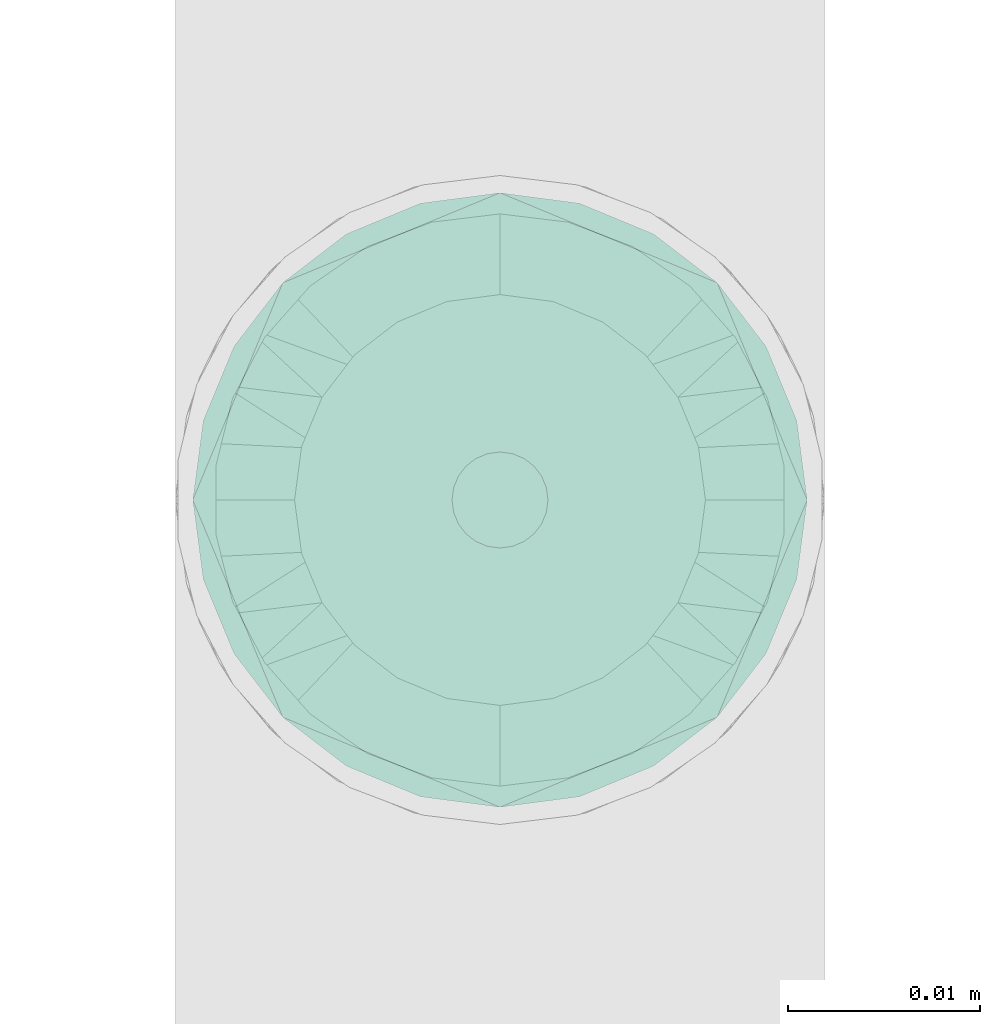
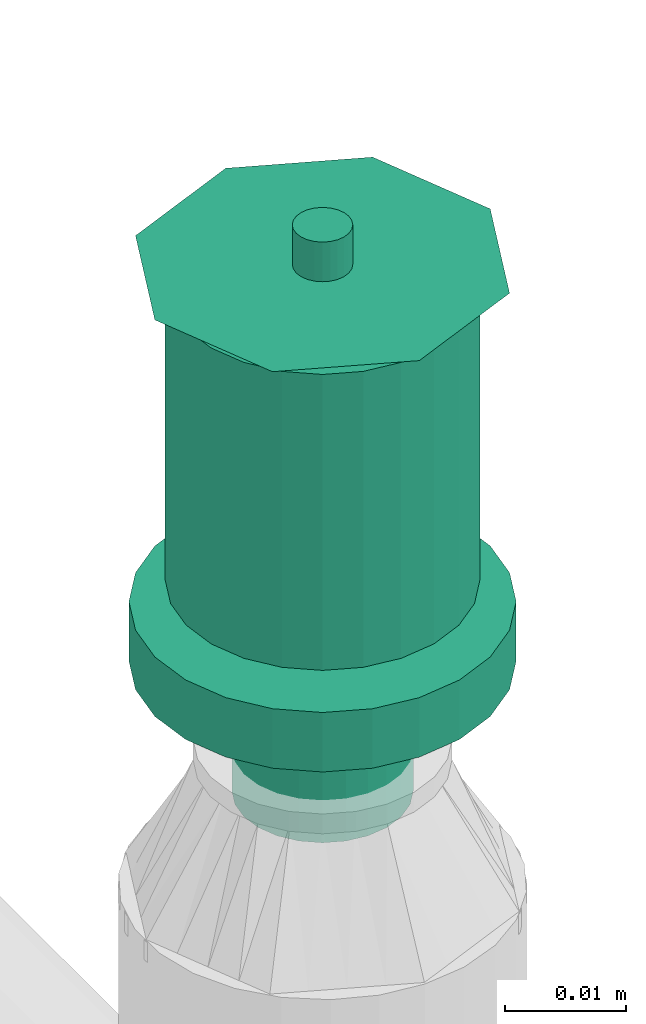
# One storey, part 5 of 31: 1 flow terminal.
"""IFC2X3 building model written with IfcOpenShell, lengths in millimetres."""

from ifc_helpers import new_model, entity, si_unit, converted_unit, derived_unit, direction, frame, origin_with_axes, place, context, subcontext, project, spatial, open_shell, surface_model, source, transform, mapped, type_object, element, save


model = new_model("IFC2X3")

# Units and contexts
model_context = context("Model", 3, precision=0.01, world=frame((0.0, 4.29681676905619e-09, 0.0)), true_north=direction((4.01073788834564e-13, 1.0)))
plan_context = context("Plan", 3, precision=0.01, world=frame((0.0, 4.29681676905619e-09, 0.0)), true_north=direction((4.01073788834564e-13, 1.0)))
body_context = subcontext(model_context, "Body", "Model", "MODEL_VIEW")
ifc_project = project(units=[converted_unit("PLANEANGLEUNIT", "DEGREE", entity("IfcPositiveLengthMeasure", 0.0174532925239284), si_unit("PLANEANGLEUNIT", "RADIAN"), dimensions=[0, 0, 0, 0, 0, 0, 0]), si_unit("AREAUNIT", "SQUARE_METRE"), si_unit("LENGTHUNIT", "METRE", prefix="MILLI"), si_unit("MASSUNIT", "GRAM", prefix="KILO"), si_unit("POWERUNIT", "WATT"), si_unit("PRESSUREUNIT", "PASCAL", prefix="KILO"), si_unit("FORCEUNIT", "NEWTON", prefix="KILO"), si_unit("ELECTRICVOLTAGEUNIT", "VOLT"), si_unit("ELECTRICCURRENTUNIT", "AMPERE"), si_unit("THERMODYNAMICTEMPERATUREUNIT", "DEGREE_CELSIUS"), si_unit("TIMEUNIT", "SECOND"), si_unit("VOLUMEUNIT", "CUBIC_METRE"), derived_unit("LINEARVELOCITYUNIT", [(si_unit("LENGTHUNIT", "METRE"), 1), (si_unit("TIMEUNIT", "SECOND"), -1)]), derived_unit("VOLUMETRICFLOWRATEUNIT", [(si_unit("VOLUMEUNIT", "CUBIC_METRE"), 1), (si_unit("TIMEUNIT", "SECOND"), -1)]), derived_unit("THERMALTRANSMITTANCEUNIT", [(si_unit("POWERUNIT", "WATT"), 1), (si_unit("THERMODYNAMICTEMPERATUREUNIT", "KELVIN"), -1), (si_unit("AREAUNIT", "SQUARE_METRE"), -1)]), derived_unit("SOUNDPRESSUREUNIT", [(si_unit("PRESSUREUNIT", "PASCAL"), 1)])], contexts=[model_context, plan_context])

# Site, building, storey
site_placement = place(None, frame((0.0, -4.29681676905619e-09, 0.0), z_axis=(0.0, 0.0, 1.0), x_axis=(1.0, 0.0, 0.0)))
site = spatial("IfcSite", under=ifc_project, at=site_placement, CompositionType="ELEMENT")
building_placement = place(site_placement, frame((0.0, 4.29681676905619e-09, 0.0), z_axis=(0.0, 0.0, 1.0), x_axis=(1.0, 0.0, 0.0)))
building = spatial("IfcBuilding", under=site, at=building_placement, Name="mc-building", CompositionType="ELEMENT")
storey_placement = place(building_placement, frame((0.0, 0.0, 200300.0), z_axis=(0.0, 0.0, 1.0), x_axis=(1.0, 0.0, 0.0)))
storey = spatial("IfcBuildingStorey", under=building, at=storey_placement, Name="Nivå C", CompositionType="ELEMENT", Elevation=200300.0)

# Flow terminal
fire_suppression_terminal_type = type_object("IfcFireSuppressionTerminalType", Name="68DGR-STD-STÅENDE", PredefinedType="NOTDEFINED")
shared_shape = source(origin_with_axes(), body_context, "Body", "SurfaceModel", [
    surface_model("IfcShellBasedSurfaceModel", [(12.55704, 3.36465, 21.14766), (13.0, 0.0, 21.14766), (12.55704, -3.36465, 21.14766), (-12.55704, -3.36465, 21.14766), (-11.25833, -6.5, 21.14766), (-11.25833, -6.5, 51.0), (3.36465, -12.55704, 51.0), (3.36465, -12.55704, 21.14766), (6.5, -11.25833, 21.14766), (9.19239, -9.19239, 21.14766), (11.25833, -6.5, 21.14766), (9.19239, -9.19239, 51.0), (6.5, -11.25833, 51.0), (11.25833, -6.5, 51.0), (12.55704, -3.36465, 51.0), (13.0, 0.0, 51.0), (9.19239, 9.19239, 51.0), (11.25833, 6.5, 21.14766), (9.19239, 9.19239, 21.14766), (11.25833, 6.5, 51.0), (12.55704, 3.36465, 51.0), (6.5, 11.25833, 51.0), (6.5, 11.25833, 21.14766), (3.36465, 12.55704, 21.14766), (3.36465, 12.55704, 51.0), (-11.25833, 6.5, 51.0), (-11.25833, 6.5, 21.14766), (-12.55704, 3.36465, 21.14766), (0.0, -2.5, 51.0), (-2.5, 0.0, 51.0), (0.0, 2.5, 51.0), (2.5, 0.0, 51.0), (11.31371, 11.31371, 53.0), (-11.31371, 11.31371, 53.0), (-11.31371, -11.31371, 53.0), (11.31371, -11.31371, 53.0), (1.62635, 1.62635, 51.0), (2.16506, 1.25, 51.0), (1.99186, 1.15, 51.0), (-1.76777, 1.76777, 51.0), (-1.25, 2.16506, 51.0), (-1.62635, 1.62635, 51.0), (1.99186, -1.15, 51.0), (2.16506, -1.25, 51.0), (1.62635, -1.62635, 51.0), (-1.62635, -1.62635, 51.0), (-1.25, -2.16506, 51.0), (-1.76777, -1.76777, 51.0), (0.0, 7.3, 0.0), (1.94114, 7.24444, 0.0), (1.88938, 7.05126, 0.0), (5.16188, 5.16188, 0.0), (6.49519, 3.75, 0.0), (6.32199, 3.65, 0.0), (-5.3033, 5.3033, 0.0), (-3.75, 6.49519, 0.0), (-5.16188, 5.16188, 0.0), (6.32199, -3.65, 0.0), (6.49519, -3.75, 0.0), (5.16188, -5.16188, 0.0), (1.88938, -7.05126, 0.0), (1.94114, -7.24444, 0.0), (0.0, -7.3, 0.0), (-5.16188, -5.16188, 0.0), (-3.75, -6.49519, 0.0), (-5.3033, -5.3033, 0.0), (-3.36465, 12.55704, 51.0), (-6.5, 11.25833, 51.0), (0.0, 13.0, 51.0), (-9.19239, 9.19239, 51.0), (0.0, -13.0, 51.0), (-9.19239, -9.19239, 51.0), (-12.55704, -3.36465, 51.0), (-6.5, -11.25833, 51.0), (-3.36465, -12.55704, 51.0), (-7.5, 0.0, -0.1), (-7.24444, 1.94114, 0.1), (-7.24444, 1.94114, -0.1), (-6.49519, 3.75, 0.1), (-6.49519, 3.75, -0.1), (-3.75, 6.49519, -0.1), (-5.3033, 5.3033, -0.1), (-3.75, 6.49519, 0.1), (-5.3033, 5.3033, 0.1), (-1.94114, 7.24444, -0.1), (-1.94114, 7.24444, 0.1), (-7.5, 0.0, 0.1), (0.0, 7.5, 0.1), (0.0, 7.5, -0.1), (1.94114, 7.24444, 0.1), (1.94114, 7.24444, -0.1), (3.75, 6.49519, 0.1), (3.75, 6.49519, -0.1), (6.49519, 3.75, -0.1), (5.3033, 5.3033, -0.1), (6.49519, 3.75, 0.1), (5.3033, 5.3033, 0.1), (7.24444, 1.94114, -0.1), (7.24444, 1.94114, 0.1), (7.5, 0.0, 0.1), (7.5, 0.0, -0.1), (-7.24444, -1.94114, 0.1), (7.24444, -1.94114, 0.1), (5.3033, -5.3033, 0.1), (6.49519, -3.75, 0.1), (-6.49519, -3.75, 0.1), (0.0, -7.5, 0.1), (1.94114, -7.24444, 0.1), (3.75, -6.49519, 0.1), (-3.75, -6.49519, 0.1), (-1.94114, -7.24444, 0.1), (-5.3033, -5.3033, 0.1), (0.0, -7.5, -0.1), (-6.49519, -3.75, -0.1), (1.94114, -7.24444, -0.1), (3.75, -6.49519, -0.1), (5.3033, -5.3033, -0.1), (7.24444, -1.94114, -0.1), (6.49519, -3.75, -0.1), (-3.75, -6.49519, -0.1), (-5.3033, -5.3033, -0.1), (-1.94114, -7.24444, -0.1), (-7.24444, -1.94114, -0.1), (16.0, 0.0, 53.0), (0.0, -16.0, 53.0), (-16.0, 0.0, 53.0), (0.0, 16.0, 53.0), (0.64705, 2.41481, 57.0), (0.0, 2.5, 57.0), (1.25, 2.16506, 57.0), (-2.5, 0.0, 57.0), (1.76777, 1.76777, 57.0), (2.41481, 0.64705, 57.0), (2.16506, 1.25, 57.0), (-0.64705, 2.41481, 57.0), (-1.25, 2.16506, 57.0), (-1.76777, 1.76777, 57.0), (-2.16506, 1.25, 57.0), (-2.41481, 0.64705, 57.0), (2.5, 0.0, 57.0), (1.76777, -1.76777, 57.0), (2.16506, -1.25, 57.0), (2.41481, -0.64705, 57.0), (-2.41481, -0.64705, 57.0), (0.64705, -2.41481, 57.0), (1.25, -2.16506, 57.0), (0.0, -2.5, 57.0), (-1.76777, -1.76777, 57.0), (-2.16506, -1.25, 57.0), (-1.25, -2.16506, 57.0), (-0.64705, -2.41481, 57.0), (1.15, -1.99186, 51.0), (1.76777, -1.76777, 51.0), (1.25, -2.16506, 51.0), (0.59528, -2.22163, 51.0), (0.0, -2.3, 51.0), (0.64705, -2.41481, 51.0), (2.22163, -0.59528, 51.0), (2.3, 0.0, 51.0), (2.41481, -0.64705, 51.0), (-0.64705, -2.41481, 51.0), (-0.59528, -2.22163, 51.0), (-1.15, -1.99186, 51.0), (-2.16506, -1.25, 51.0), (-1.99186, -1.15, 51.0), (-2.22163, -0.59528, 51.0), (-2.3, 0.0, 51.0), (-2.41481, -0.64705, 51.0), (2.22163, 0.59528, 51.0), (2.41481, 0.64705, 51.0), (1.76777, 1.76777, 51.0), (1.15, 1.99186, 51.0), (1.25, 2.16506, 51.0), (0.59528, 2.22163, 51.0), (0.0, 2.3, 51.0), (0.64705, 2.41481, 51.0), (-1.99186, 1.15, 51.0), (-2.16506, 1.25, 51.0), (-2.41481, 0.64705, 51.0), (-2.22163, 0.59528, 51.0), (-0.64705, 2.41481, 51.0), (-0.59528, 2.22163, 51.0), (-1.15, 1.99186, 51.0), (-2.22163, 0.59528, 56.8), (-1.99186, 1.15, 56.8), (-1.15, 1.99186, 56.8), (-1.62635, 1.62635, 56.8), (-0.59528, 2.22163, 56.8), (-2.3, 0.0, 56.8), (0.0, 2.3, 56.8), (0.59528, 2.22163, 56.8), (1.15, 1.99186, 56.8), (1.99186, 1.15, 56.8), (1.62635, 1.62635, 56.8), (2.22163, 0.59528, 56.8), (2.3, 0.0, 56.8), (2.22163, -0.59528, 56.8), (1.99186, -1.15, 56.8), (1.62635, -1.62635, 56.8), (1.15, -1.99186, 56.8), (0.59528, -2.22163, 56.8), (0.0, -2.3, 56.8), (-1.99186, -1.15, 56.8), (-2.22163, -0.59528, 56.8), (-1.62635, -1.62635, 56.8), (-0.59528, -2.22163, 56.8), (-1.15, -1.99186, 56.8), (8.0, -13.85641, 13.0), (4.1411, -15.45481, 13.0), (0.0, -16.0, 13.0), (-4.1411, -15.45481, 13.0), (15.45481, -4.1411, 13.0), (13.85641, -8.0, 13.0), (11.31371, -11.31371, 13.0), (-16.0, 0.0, 13.0), (-8.0, -13.85641, 13.0), (-11.31371, -11.31371, 13.0), (-13.85641, -8.0, 13.0), (-15.45481, -4.1411, 13.0), (15.45481, 4.1411, 13.0), (4.1411, 15.45481, 13.0), (13.85641, 8.0, 13.0), (8.0, 13.85641, 13.0), (11.31371, 11.31371, 13.0), (-15.45481, 4.1411, 13.0), (-11.31371, 11.31371, 13.0), (-8.0, 13.85641, 13.0), (-13.85641, 8.0, 13.0), (-4.1411, 15.45481, 13.0), (0.0, 16.0, 13.0), (16.0, 0.0, 13.0), (7.05126, 1.88938, 12.8), (1.88938, 7.05126, 12.8), (3.65, 6.32199, 12.8), (6.32199, 3.65, 12.8), (5.16188, 5.16188, 12.8), (7.3, 0.0, 12.8), (0.0, 7.3, 12.8), (-3.65, 6.32199, 12.8), (-1.88938, 7.05126, 12.8), (-5.16188, 5.16188, 12.8), (-7.05126, 1.88938, 12.8), (-6.32199, 3.65, 12.8), (7.05126, -1.88938, 12.8), (0.0, -7.3, 12.8), (6.32199, -3.65, 12.8), (3.65, -6.32199, 12.8), (5.16188, -5.16188, 12.8), (1.88938, -7.05126, 12.8), (-7.3, 0.0, 12.8), (-6.32199, -3.65, 12.8), (-7.05126, -1.88938, 12.8), (-1.88938, -7.05126, 12.8), (-5.16188, -5.16188, 12.8), (-3.65, -6.32199, 12.8), (-7.05126, 1.88938, 0.0), (-7.3, 0.0, 0.0), (-6.32199, 3.65, 0.0), (-3.65, 6.32199, 0.0), (-1.88938, 7.05126, 0.0), (3.65, 6.32199, 0.0), (7.05126, 1.88938, 0.0), (7.3, 0.0, 0.0), (3.75, 6.49519, 13.0), (1.94114, 7.24444, 13.0), (7.5, 0.0, 13.0), (5.3033, 5.3033, 13.0), (7.24444, 1.94114, 13.0), (6.49519, 3.75, 13.0), (-5.3033, 5.3033, 13.0), (-7.24444, -1.94114, 13.0), (-1.94114, 7.24444, 13.0), (-3.75, 6.49519, 13.0), (0.0, 7.5, 13.0), (-6.49519, 3.75, 13.0), (-7.24444, 1.94114, 13.0), (7.24444, -1.94114, 13.0), (5.3033, -5.3033, 13.0), (6.49519, -3.75, 13.0), (-6.49519, -3.75, 13.0), (0.0, -7.5, 13.0), (1.94114, -7.24444, 13.0), (3.75, -6.49519, 13.0), (-7.5, 0.0, 13.0), (-3.75, -6.49519, 13.0), (-1.94114, -7.24444, 13.0), (-5.3033, -5.3033, 13.0), (3.65, -6.32199, 0.0), (5.3033, -5.3033, 0.0), (3.75, -6.49519, 0.0), (0.0, -7.5, 0.0), (7.05126, -1.88938, 0.0), (7.24444, -1.94114, 0.0), (7.5, 0.0, 0.0), (-1.94114, -7.24444, 0.0), (-1.88938, -7.05126, 0.0), (-3.65, -6.32199, 0.0), (-6.49519, -3.75, 0.0), (-6.32199, -3.65, 0.0), (-7.05126, -1.88938, 0.0), (-7.24444, -1.94114, 0.0), (-7.5, 0.0, 0.0), (7.24444, 1.94114, 0.0), (5.3033, 5.3033, 0.0), (3.75, 6.49519, 0.0), (0.0, 7.5, 0.0), (-6.49519, 3.75, 0.0), (-7.24444, 1.94114, 0.0), (-1.94114, 7.24444, 0.0), (-12.55704, 3.36465, 51.0), (-13.0, 0.0, 51.0), (0.0, -13.0, 21.14766), (-3.36465, -12.55704, 21.14766), (-6.5, -11.25833, 21.14766), (-9.19239, -9.19239, 21.14766), (-13.0, 0.0, 21.14766), (-9.19239, 9.19239, 21.14766), (-6.5, 11.25833, 21.14766), (-3.36465, 12.55704, 21.14766), (0.0, 13.0, 21.14766), (11.31371, 11.31371, 19.0), (8.0, 13.85641, 19.0), (4.1411, 15.45481, 19.0), (-8.0, 13.85641, 19.0), (16.0, 0.0, 19.0), (15.45481, 4.1411, 19.0), (13.85641, 8.0, 19.0), (-4.1411, 15.45481, 19.0), (0.0, 16.0, 19.0), (-11.31371, 11.31371, 19.0), (-13.85641, 8.0, 19.0), (-15.45481, 4.1411, 19.0), (15.45481, -4.1411, 19.0), (11.31371, -11.31371, 19.0), (13.85641, -8.0, 19.0), (-16.0, 0.0, 19.0), (0.0, -16.0, 19.0), (4.1411, -15.45481, 19.0), (8.0, -13.85641, 19.0), (-13.85641, -8.0, 19.0), (-11.31371, -11.31371, 19.0), (-15.45481, -4.1411, 19.0), (-8.0, -13.85641, 19.0), (-4.1411, -15.45481, 19.0)], [open_shell([[[0, 1, 2]], [[3, 4, 5]], [[6, 7, 8]], [[9, 10, 11]], [[9, 11, 12]], [[10, 13, 11]], [[14, 13, 2]], [[1, 15, 14]], [[16, 17, 18]], [[0, 19, 20]], [[20, 15, 1]], [[21, 16, 18]], [[22, 23, 24]], [[16, 19, 17]], [[25, 26, 27]], [[28, 29, 30]], [[30, 31, 28]], [[31, 30, 32]], [[33, 30, 29]], [[29, 28, 34]], [[35, 28, 31]], [[36, 37, 38]], [[39, 40, 41]], [[42, 43, 44]], [[45, 46, 47]], [[48, 49, 50]], [[51, 52, 53]], [[54, 55, 56]], [[57, 58, 59]], [[60, 61, 62]], [[63, 64, 65]], [[66, 67, 68]], [[67, 24, 68]], [[69, 25, 67]], [[15, 20, 14]], [[70, 6, 12]], [[5, 71, 72]], [[73, 74, 71]], [[72, 71, 74]], [[75, 76, 77]], [[77, 78, 79]], [[80, 81, 82]], [[83, 81, 79]], [[84, 80, 85]], [[76, 78, 77]], [[75, 86, 76]], [[80, 82, 85]], [[82, 81, 83]], [[79, 78, 83]], [[84, 85, 87]], [[87, 88, 84]], [[88, 89, 90]], [[90, 91, 92]], [[93, 94, 95]], [[96, 94, 92]], [[97, 93, 98]], [[91, 96, 92]], [[90, 89, 91]], [[97, 98, 99]], [[98, 93, 95]], [[94, 96, 95]], [[97, 99, 100]], [[87, 89, 88]], [[91, 89, 99]], [[96, 91, 98]], [[91, 99, 98]], [[95, 96, 98]], [[89, 83, 101]], [[85, 82, 87]], [[83, 87, 82]], [[78, 76, 83]], [[89, 87, 83]], [[76, 101, 83]], [[102, 99, 89]], [[103, 104, 102]], [[89, 105, 103]], [[103, 106, 107]], [[108, 103, 107]], [[106, 103, 105]], [[89, 101, 105]], [[101, 76, 86]], [[109, 110, 111]], [[105, 111, 110]], [[106, 105, 110]], [[103, 102, 89]], [[112, 113, 114]], [[115, 114, 116]], [[117, 118, 116]], [[113, 116, 114]], [[116, 113, 117]], [[119, 120, 121]], [[113, 121, 120]], [[121, 113, 112]], [[113, 122, 117]], [[75, 77, 122]], [[100, 117, 122]], [[100, 81, 97]], [[93, 97, 90]], [[90, 92, 94]], [[93, 90, 94]], [[90, 97, 81]], [[79, 81, 77]], [[77, 81, 122]], [[84, 88, 80]], [[81, 80, 88]], [[81, 88, 90]], [[100, 122, 81]], [[100, 102, 117]], [[117, 104, 118]], [[115, 116, 108]], [[103, 116, 118]], [[114, 115, 107]], [[102, 104, 117]], [[100, 99, 102]], [[115, 108, 107]], [[108, 116, 103]], [[118, 104, 103]], [[114, 107, 106]], [[106, 112, 114]], [[112, 110, 121]], [[121, 109, 119]], [[113, 120, 105]], [[111, 120, 119]], [[122, 113, 101]], [[109, 111, 119]], [[121, 110, 109]], [[122, 101, 86]], [[101, 113, 105]], [[120, 111, 105]], [[122, 86, 75]], [[106, 110, 112]], [[31, 123, 35]], [[35, 124, 28]], [[124, 34, 28]], [[29, 34, 125]], [[33, 32, 126]], [[33, 125, 124]], [[124, 32, 33]], [[124, 35, 123]], [[124, 125, 34]], [[123, 32, 124]], [[29, 125, 33]], [[33, 126, 30]], [[126, 32, 30]], [[31, 32, 123]], [[127, 128, 129]], [[129, 130, 131]], [[132, 131, 130]], [[133, 131, 132]], [[130, 129, 128]], [[134, 135, 128]], [[136, 128, 135]], [[137, 138, 136]], [[128, 136, 130]], [[138, 130, 136]], [[139, 132, 130]], [[140, 141, 142]], [[143, 140, 139]], [[144, 140, 143]], [[145, 140, 144]], [[146, 144, 147]], [[139, 130, 143]], [[143, 148, 144]], [[149, 150, 147]], [[144, 148, 147]], [[146, 147, 150]], [[140, 142, 139]], [[151, 152, 153]], [[154, 151, 153]], [[155, 154, 156]], [[153, 156, 154]], [[28, 155, 156]], [[44, 152, 151]], [[157, 158, 159]], [[31, 159, 158]], [[43, 157, 159]], [[152, 44, 43]], [[157, 43, 42]], [[160, 161, 28]], [[161, 155, 28]], [[162, 161, 160]], [[160, 46, 162]], [[162, 46, 45]], [[47, 163, 164]], [[165, 164, 163]], [[45, 47, 164]], [[166, 165, 167]], [[163, 167, 165]], [[29, 166, 167]], [[168, 169, 31]], [[38, 169, 168]], [[169, 38, 37]], [[170, 37, 36]], [[171, 172, 170]], [[173, 172, 171]], [[174, 175, 173]], [[172, 173, 175]], [[30, 175, 174]], [[170, 36, 171]], [[39, 176, 177]], [[41, 176, 39]], [[178, 177, 176]], [[178, 179, 29]], [[176, 179, 178]], [[179, 166, 29]], [[180, 30, 181]], [[182, 180, 181]], [[182, 41, 40]], [[180, 182, 40]], [[181, 30, 174]], [[31, 158, 168]], [[29, 138, 178]], [[178, 137, 177]], [[40, 39, 135]], [[136, 39, 177]], [[180, 40, 134]], [[138, 137, 178]], [[29, 130, 138]], [[40, 135, 134]], [[135, 39, 136]], [[177, 137, 136]], [[180, 134, 128]], [[128, 30, 180]], [[30, 127, 175]], [[175, 129, 172]], [[37, 170, 133]], [[131, 170, 172]], [[169, 37, 132]], [[129, 131, 172]], [[175, 127, 129]], [[169, 132, 139]], [[132, 37, 133]], [[170, 131, 133]], [[169, 139, 31]], [[128, 127, 30]], [[179, 183, 166]], [[176, 184, 179]], [[185, 41, 182]], [[176, 41, 186]], [[187, 182, 181]], [[179, 184, 183]], [[183, 188, 166]], [[187, 185, 182]], [[186, 41, 185]], [[186, 184, 176]], [[189, 187, 181]], [[181, 174, 189]], [[173, 190, 174]], [[171, 191, 173]], [[192, 36, 38]], [[171, 36, 193]], [[194, 38, 168]], [[171, 193, 191]], [[191, 190, 173]], [[195, 194, 168]], [[192, 38, 194]], [[192, 193, 36]], [[158, 195, 168]], [[174, 190, 189]], [[31, 142, 159]], [[159, 141, 43]], [[153, 152, 145]], [[140, 152, 43]], [[156, 153, 144]], [[142, 141, 159]], [[31, 139, 142]], [[153, 145, 144]], [[145, 152, 140]], [[43, 141, 140]], [[156, 144, 146]], [[146, 28, 156]], [[28, 150, 160]], [[160, 149, 46]], [[163, 47, 148]], [[147, 47, 46]], [[167, 163, 143]], [[149, 147, 46]], [[160, 150, 149]], [[167, 143, 130]], [[143, 163, 148]], [[47, 147, 148]], [[167, 130, 29]], [[146, 150, 28]], [[190, 191, 193]], [[190, 193, 195]], [[194, 195, 193]], [[194, 193, 192]], [[190, 195, 186]], [[189, 185, 187]], [[185, 189, 186]], [[186, 183, 184]], [[186, 189, 190]], [[186, 196, 183]], [[186, 195, 196]], [[196, 197, 198]], [[196, 198, 199]], [[199, 200, 201]], [[199, 201, 196]], [[196, 201, 202]], [[188, 202, 203]], [[183, 202, 188]], [[204, 205, 206]], [[205, 204, 202]], [[201, 205, 202]], [[202, 183, 196]], [[157, 196, 158]], [[42, 197, 157]], [[199, 44, 151]], [[42, 44, 198]], [[200, 151, 154]], [[157, 197, 196]], [[196, 195, 158]], [[200, 199, 151]], [[198, 44, 199]], [[198, 197, 42]], [[201, 200, 154]], [[154, 155, 201]], [[161, 205, 155]], [[162, 206, 161]], [[202, 45, 164]], [[162, 45, 204]], [[203, 164, 165]], [[162, 204, 206]], [[206, 205, 161]], [[188, 203, 165]], [[202, 164, 203]], [[202, 204, 45]], [[166, 188, 165]], [[155, 205, 201]], [[207, 208, 209]], [[207, 209, 210]], [[211, 212, 213]], [[213, 207, 214]], [[211, 213, 214]], [[215, 216, 210]], [[217, 210, 216]], [[217, 218, 210]], [[218, 207, 210]], [[218, 214, 207]], [[214, 219, 211]], [[220, 219, 214]], [[221, 219, 220]], [[220, 222, 223]], [[221, 220, 223]], [[214, 224, 220]], [[225, 226, 227]], [[224, 227, 226]], [[228, 229, 226]], [[220, 224, 226]], [[226, 229, 220]], [[219, 230, 211]], [[231, 232, 233]], [[234, 233, 235]], [[231, 236, 232]], [[231, 233, 234]], [[232, 236, 237]], [[237, 238, 239]], [[238, 237, 240]], [[240, 241, 242]], [[240, 237, 236]], [[236, 241, 240]], [[236, 243, 241]], [[244, 243, 245]], [[246, 245, 247]], [[246, 248, 244]], [[246, 244, 245]], [[243, 244, 249]], [[249, 250, 251]], [[250, 249, 252]], [[253, 252, 254]], [[252, 253, 250]], [[249, 244, 252]], [[243, 249, 241]], [[255, 241, 256]], [[257, 242, 255]], [[238, 56, 258]], [[257, 56, 240]], [[239, 258, 259]], [[255, 242, 241]], [[241, 249, 256]], [[239, 238, 258]], [[240, 56, 238]], [[240, 242, 257]], [[237, 239, 259]], [[259, 48, 237]], [[50, 232, 48]], [[260, 233, 50]], [[234, 51, 53]], [[260, 51, 235]], [[231, 53, 261]], [[260, 235, 233]], [[233, 232, 50]], [[236, 231, 261]], [[234, 53, 231]], [[234, 235, 51]], [[262, 236, 261]], [[48, 232, 237]], [[263, 264, 265]], [[266, 263, 267]], [[263, 265, 267]], [[268, 266, 267]], [[264, 269, 270]], [[271, 272, 273]], [[269, 273, 272]], [[274, 275, 269]], [[264, 273, 269]], [[275, 270, 269]], [[276, 265, 264]], [[277, 278, 276]], [[264, 279, 277]], [[277, 280, 281]], [[282, 277, 281]], [[280, 277, 279]], [[264, 270, 279]], [[270, 275, 283]], [[284, 285, 286]], [[279, 286, 285]], [[280, 279, 285]], [[277, 276, 264]], [[287, 288, 289]], [[60, 287, 289]], [[290, 62, 61]], [[289, 61, 60]], [[59, 288, 287]], [[291, 262, 292]], [[293, 292, 262]], [[58, 291, 292]], [[288, 59, 58]], [[291, 58, 57]], [[294, 295, 290]], [[296, 295, 294]], [[294, 64, 296]], [[64, 63, 296]], [[295, 62, 290]], [[65, 297, 298]], [[299, 298, 297]], [[63, 65, 298]], [[256, 299, 300]], [[297, 300, 299]], [[301, 256, 300]], [[261, 302, 293]], [[53, 302, 261]], [[302, 53, 52]], [[303, 52, 51]], [[260, 304, 303]], [[50, 304, 260]], [[304, 50, 49]], [[305, 49, 48]], [[303, 51, 260]], [[54, 257, 306]], [[56, 257, 54]], [[307, 306, 257]], [[307, 255, 301]], [[257, 255, 307]], [[255, 256, 301]], [[308, 305, 259]], [[258, 308, 259]], [[55, 258, 56]], [[308, 258, 55]], [[259, 305, 48]], [[293, 262, 261]], [[301, 275, 307]], [[307, 274, 306]], [[55, 54, 272]], [[269, 54, 306]], [[308, 55, 271]], [[275, 274, 307]], [[301, 283, 275]], [[55, 272, 271]], [[272, 54, 269]], [[306, 274, 269]], [[308, 271, 273]], [[273, 305, 308]], [[305, 264, 49]], [[49, 263, 304]], [[52, 303, 268]], [[266, 303, 304]], [[302, 52, 267]], [[263, 266, 304]], [[49, 264, 263]], [[302, 267, 265]], [[267, 52, 268]], [[303, 266, 268]], [[302, 265, 293]], [[273, 264, 305]], [[293, 276, 292]], [[292, 278, 58]], [[289, 288, 282]], [[277, 288, 58]], [[61, 289, 281]], [[276, 278, 292]], [[293, 265, 276]], [[289, 282, 281]], [[282, 288, 277]], [[58, 278, 277]], [[61, 281, 280]], [[280, 290, 61]], [[290, 285, 294]], [[294, 284, 64]], [[297, 65, 279]], [[286, 65, 64]], [[300, 297, 270]], [[284, 286, 64]], [[294, 285, 284]], [[300, 270, 283]], [[270, 297, 279]], [[65, 286, 279]], [[300, 283, 301]], [[280, 285, 290]], [[291, 243, 262]], [[57, 245, 291]], [[246, 59, 287]], [[57, 59, 247]], [[248, 287, 60]], [[291, 245, 243]], [[243, 236, 262]], [[248, 246, 287]], [[247, 59, 246]], [[247, 245, 57]], [[244, 248, 60]], [[60, 62, 244]], [[295, 252, 62]], [[296, 254, 295]], [[250, 63, 298]], [[296, 63, 253]], [[251, 298, 299]], [[296, 253, 254]], [[254, 252, 295]], [[249, 251, 299]], [[250, 298, 251]], [[250, 253, 63]], [[256, 249, 299]], [[62, 252, 244]], [[16, 21, 24]], [[20, 16, 24]], [[24, 67, 72]], [[19, 16, 20]], [[24, 72, 20]], [[25, 72, 67]], [[309, 310, 25]], [[11, 13, 14]], [[72, 11, 20]], [[74, 12, 11]], [[12, 74, 70]], [[72, 25, 310]], [[72, 74, 11]], [[11, 14, 20]], [[8, 7, 311]], [[8, 311, 312]], [[2, 10, 9]], [[3, 9, 8]], [[3, 26, 9]], [[313, 314, 312]], [[3, 312, 314]], [[4, 3, 314]], [[3, 8, 312]], [[315, 26, 3]], [[2, 9, 26]], [[0, 2, 26]], [[17, 0, 18]], [[23, 22, 18]], [[0, 23, 18]], [[23, 0, 26]], [[316, 317, 26]], [[26, 315, 27]], [[318, 319, 317]], [[23, 26, 317]], [[23, 317, 319]], [[316, 26, 25]], [[318, 317, 67]], [[69, 317, 316]], [[319, 318, 66]], [[310, 309, 315]], [[27, 315, 309]], [[25, 27, 309]], [[25, 69, 316]], [[317, 69, 67]], [[67, 66, 318]], [[66, 68, 319]], [[22, 21, 18]], [[0, 17, 19]], [[1, 0, 20]], [[68, 24, 23]], [[24, 21, 22]], [[319, 68, 23]], [[1, 14, 2]], [[2, 13, 10]], [[6, 311, 7]], [[6, 8, 12]], [[12, 8, 9]], [[6, 70, 311]], [[313, 312, 74]], [[313, 73, 314]], [[71, 4, 314]], [[315, 3, 72]], [[70, 74, 312]], [[74, 73, 313]], [[73, 71, 314]], [[71, 5, 4]], [[3, 5, 72]], [[72, 310, 315]], [[311, 70, 312]], [[320, 321, 322]], [[320, 322, 323]], [[320, 324, 325]], [[326, 320, 325]], [[324, 320, 323]], [[327, 323, 328]], [[323, 322, 328]], [[329, 330, 323]], [[331, 323, 330]], [[323, 331, 324]], [[331, 332, 324]], [[333, 334, 332]], [[335, 333, 331]], [[336, 337, 338]], [[335, 338, 333]], [[338, 335, 336]], [[339, 340, 341]], [[335, 341, 340]], [[342, 343, 340]], [[335, 340, 343]], [[343, 336, 335]], [[332, 331, 333]], [[214, 331, 224]], [[224, 330, 227]], [[226, 225, 323]], [[329, 225, 227]], [[228, 226, 327]], [[331, 330, 224]], [[214, 335, 331]], [[226, 323, 327]], [[323, 225, 329]], [[227, 330, 329]], [[228, 327, 328]], [[328, 229, 228]], [[229, 322, 220]], [[220, 321, 222]], [[221, 223, 326]], [[320, 223, 222]], [[219, 221, 325]], [[321, 320, 222]], [[220, 322, 321]], [[219, 325, 324]], [[325, 221, 326]], [[223, 320, 326]], [[219, 324, 230]], [[328, 322, 229]], [[230, 332, 211]], [[211, 334, 212]], [[207, 213, 338]], [[333, 213, 212]], [[208, 207, 337]], [[332, 334, 211]], [[230, 324, 332]], [[207, 338, 337]], [[338, 213, 333]], [[212, 334, 333]], [[208, 337, 336]], [[336, 209, 208]], [[209, 343, 210]], [[210, 342, 215]], [[217, 216, 339]], [[340, 216, 215]], [[218, 217, 341]], [[342, 340, 215]], [[210, 343, 342]], [[218, 341, 335]], [[341, 217, 339]], [[216, 340, 339]], [[218, 335, 214]], [[336, 343, 209]]])]),
])
flow_terminal_placement = place(storey_placement, frame((602500.0, 400928.19532, 2972.0), z_axis=(0.0, 0.0, 1.0), x_axis=(-1.0, 0.0, 0.0)))
element("IfcFlowTerminal", 1, at=flow_terminal_placement, inside=storey, type_object=fire_suppression_terminal_type, Name="68DGR-STD-STÅENDE", context=body_context, shape_type="MappedRepresentation", body=[
    mapped(shared_shape, transform((0.0, 0.0, 0.0), scale=1.0)),
])

save(model, "model.ifc")
